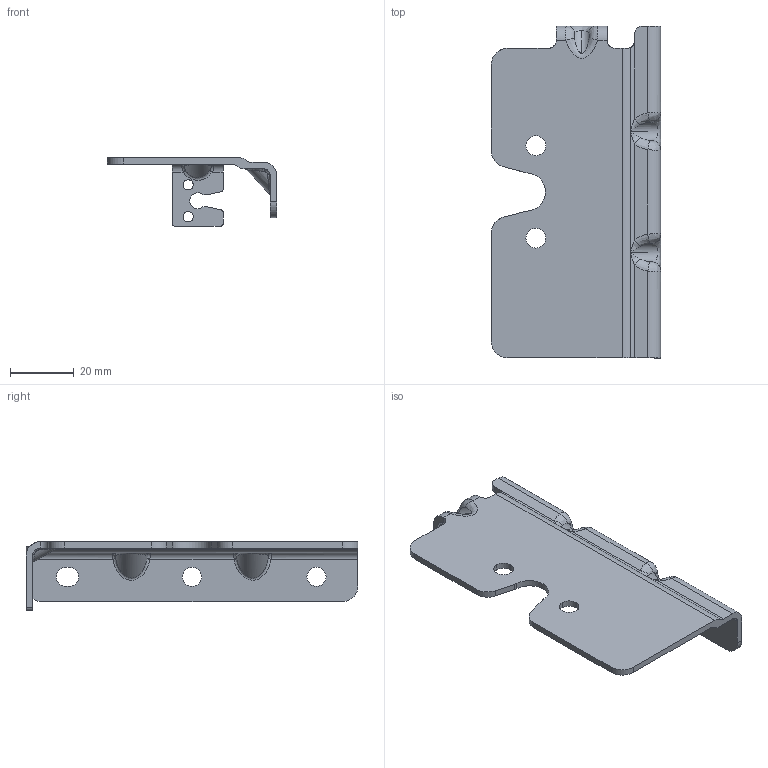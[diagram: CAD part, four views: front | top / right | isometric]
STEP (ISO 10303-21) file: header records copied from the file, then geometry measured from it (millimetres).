
FILE_DESCRIPTION(('CATIA V5 STEP Exchange'),'2;1');
FILE_NAME('C:\Users\Administrator\Desktop\SHT0015497.stp','2024-09-12T06:34:39+00:00',('none'),('none'),'CATIA Version 5 Release 20 GA (IN-10)','CATIA V5 STEP AP214','none');
FILE_SCHEMA(('AUTOMOTIVE_DESIGN { 1 0 10303 214 1 1 1 1 }'));
Length unit declared in the file: millimetre
Products named in the file (1): Part38
Bounding box: 53 x 104 x 21.5 mm (x, y, z)
Volume: 13530.4 mm3; surface area: 14330.1 mm2
Topology: 1 solids, 1 shells, 124 faces, 330 edges, 208 vertices
Faces by surface type: cylinder 60, bspline 32, plane 32
Entity records: 6580 total; most frequent: CARTESIAN_POINT 3851, ORIENTED_EDGE 660, DIRECTION 370, EDGE_CURVE 330, VERTEX_POINT 208, AXIS2_PLACEMENT_3D 159, EDGE_LOOP 138, VECTOR 135
